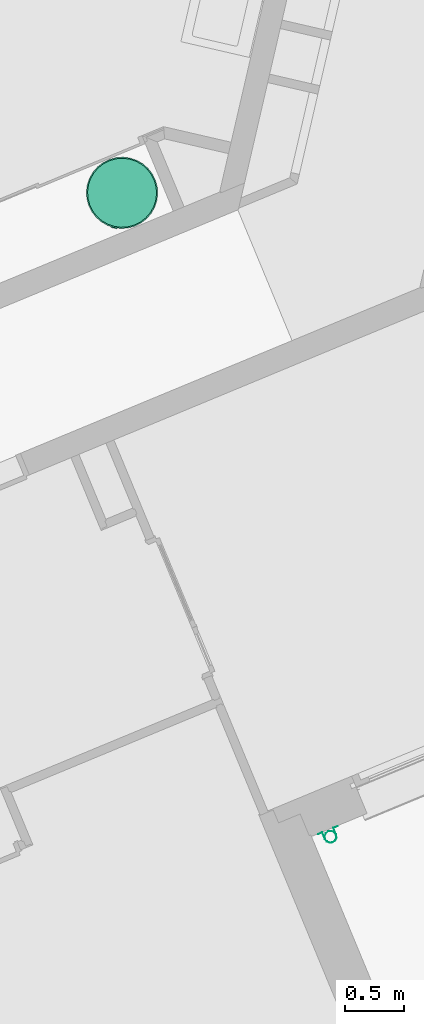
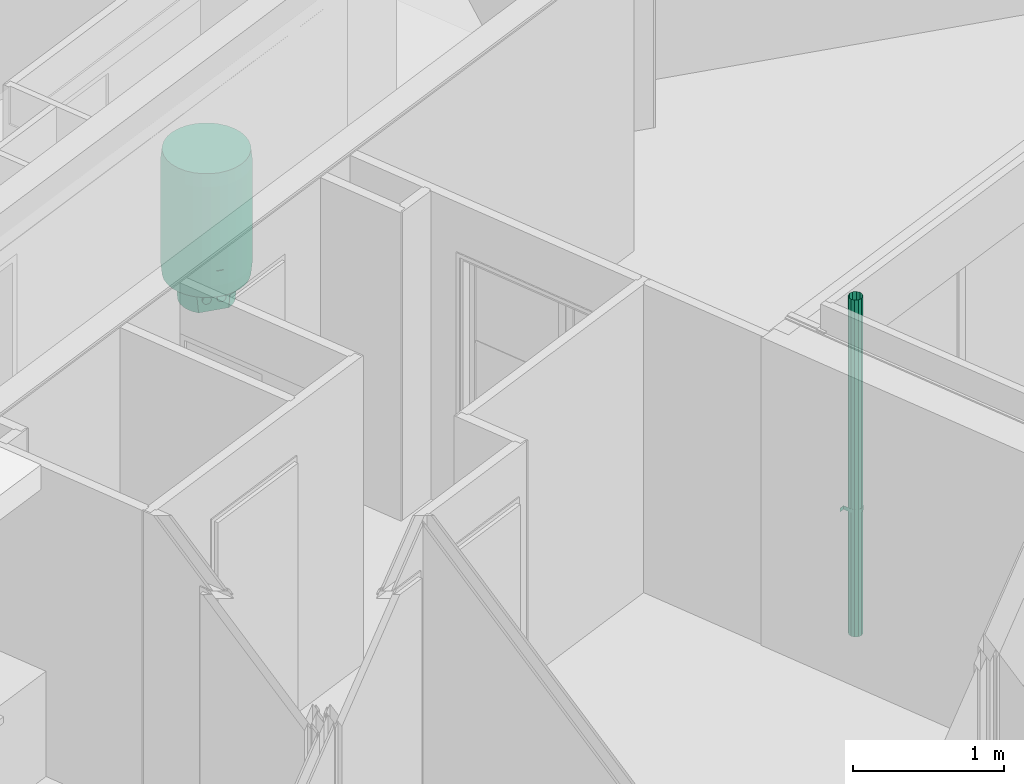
# One storey, part 69 of 91: 1 energy conversion device, 1 flow terminal.
"""IFC2X3 building model written with IfcOpenShell, lengths in metres."""

from ifc_helpers import new_model, entity, si_unit, converted_unit, derived_unit, money_unit, direction, frame, origin_with_axes, place, context, subcontext, project, spatial, open_shell, faceted_brep, surface_model, source, transform, mapped, type_object, element, save


model = new_model("IFC2X3")

# Units and contexts
model_context = context("Model", 3, precision=1e-05, world=origin_with_axes(), true_north=direction((0.0, 1.0)))
body_context = subcontext(model_context, "Body", "Model", "MODEL_VIEW")
ifc_project = project(units=[si_unit("LENGTHUNIT", "METRE"), si_unit("AREAUNIT", "SQUARE_METRE"), si_unit("VOLUMEUNIT", "CUBIC_METRE"), converted_unit("PLANEANGLEUNIT", "DEGREE", entity("IfcPlaneAngleMeasure", 0.0174532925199), si_unit("PLANEANGLEUNIT", "RADIAN"), dimensions=[0, 0, 0, 0, 0, 0, 0]), si_unit("SOLIDANGLEUNIT", "STERADIAN"), money_unit("EUR"), converted_unit("TIMEUNIT", "Year", entity("IfcTimeMeasure", 31556926.0), si_unit("TIMEUNIT", "SECOND"), dimensions=[0, 0, 1, 0, 0, 0, 0]), si_unit("MASSUNIT", "GRAM", prefix="KILO"), si_unit("THERMODYNAMICTEMPERATUREUNIT", "DEGREE_CELSIUS"), si_unit("LUMINOUSINTENSITYUNIT", "LUMEN"), si_unit("ENERGYUNIT", "JOULE", prefix="MEGA"), derived_unit("THERMALCONDUCTANCEUNIT", [(si_unit("POWERUNIT", "WATT"), 1), (si_unit("LENGTHUNIT", "METRE"), -1), (si_unit("THERMODYNAMICTEMPERATUREUNIT", "KELVIN"), -1)]), derived_unit("SPECIFICHEATCAPACITYUNIT", [(si_unit("ENERGYUNIT", "JOULE"), 1), (si_unit("MASSUNIT", "GRAM", prefix="KILO"), -1), (si_unit("THERMODYNAMICTEMPERATUREUNIT", "KELVIN"), -1)]), derived_unit("MASSDENSITYUNIT", [(si_unit("MASSUNIT", "GRAM", prefix="KILO"), 1), (si_unit("VOLUMEUNIT", "CUBIC_METRE"), -1)])], contexts=[model_context])

# Site, building, storey
site_placement = place(None, origin_with_axes())
site = spatial("IfcSite", under=ifc_project, at=site_placement, Name="Site", CompositionType="ELEMENT")
building_placement = place(site_placement, origin_with_axes())
building = spatial("IfcBuilding", under=site, at=building_placement, Name="Bâtiment", CompositionType="ELEMENT")
storey_placement = place(building_placement, frame((0.0, 0.0, 5.44), z_axis=(0.0, 0.0, 1.0), x_axis=(1.0, 0.0, 0.0)))
storey = spatial("IfcBuildingStorey", under=building, at=storey_placement, Name="R+2", CompositionType="ELEMENT", Elevation=5.44)

# Flow terminal
waste_terminal_type = type_object("IfcWasteTerminalType", Name="Tuyau descente 23", PredefinedType="GULLYTRAP")
shared_shape_1 = source(origin_with_axes(), body_context, "Body", "SurfaceModel", [
    surface_model("IfcShellBasedSurfaceModel", [(0.05, -0.0125, 2.7222918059), (0.0433012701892, -0.0375, 2.7222918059), (0.0433012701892, -0.0375, 0.0), (0.05, -0.0125, 0.0), (0.025, -0.0558012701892, 2.7222918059), (0.025, -0.0558012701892, 0.0), (0.0433012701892, 0.0125, 2.7222918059), (0.0433012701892, 0.0125, 0.0), (0.0, -0.0625, 2.7222918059), (0.0, -0.0625, 0.0), (0.025, 0.0308012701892, 2.7222918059), (0.025, 0.0308012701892, 0.0), (-0.025, -0.0558012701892, 2.7222918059), (-0.025, -0.0558012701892, 0.0), (0.0, 0.0375, 2.7222918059), (0.0, 0.0375, 0.0), (-0.0433012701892, -0.0375, 2.7222918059), (-0.0433012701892, -0.0375, 0.0), (-0.025, 0.0308012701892, 2.7222918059), (-0.025, 0.0308012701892, 0.0), (-0.05, -0.0125, 2.7222918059), (-0.05, -0.0125, 0.0), (-0.0433012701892, 0.0125, 2.7222918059), (-0.0433012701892, 0.0125, 0.0)], [open_shell([[[0, 1, 2, 3]], [[1, 4, 5, 2]], [[6, 0, 3, 7]], [[4, 8, 9, 5]], [[10, 6, 7, 11]], [[8, 12, 13, 9]], [[14, 10, 11, 15]], [[12, 16, 17, 13]], [[18, 14, 15, 19]], [[16, 20, 21, 17]], [[22, 18, 19, 23]], [[20, 22, 23, 21]]])]),
    faceted_brep([(-0.09, 0.0479, 1.0), (-0.052, 0.0479, 1.0), (-0.052, 0.0479, 1.03), (-0.09, 0.0479, 1.03), (-0.09, 0.0499, 1.0), (-0.0502, 0.0499, 1.0), (-0.0502, -0.0126, 1.0), (-0.04347447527, -0.0377, 1.0), (-0.0251, -0.05607447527, 1.0), (0.0, -0.0628, 1.0), (0.0251, -0.05607447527, 1.0), (0.04347447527, -0.0377, 1.0), (0.0502, -0.0126, 1.0), (0.0502, 0.0499, 1.0), (0.09, 0.0499, 1.0), (0.09, 0.0479, 1.0), (0.052, 0.0479, 1.0), (0.052, -0.0126, 1.0), (0.0450333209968, -0.0386, 1.0), (0.026, -0.0576333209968, 1.0), (0.0, -0.0646, 1.0), (-0.026, -0.0576333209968, 1.0), (-0.0450333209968, -0.0386, 1.0), (-0.052, -0.0126, 1.0), (-0.052, -0.0126, 1.03), (-0.0450333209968, -0.0386, 1.03), (-0.026, -0.0576333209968, 1.03), (0.0, -0.0646, 1.03), (0.026, -0.0576333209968, 1.03), (0.0450333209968, -0.0386, 1.03), (0.052, -0.0126, 1.03), (0.052, 0.0479, 1.03), (0.09, 0.0479, 1.03), (0.09, 0.0499, 1.03), (0.0502, 0.0499, 1.03), (0.0502, -0.0126, 1.03), (0.04347447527, -0.0377, 1.03), (0.0251, -0.05607447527, 1.03), (0.0, -0.0628, 1.03), (-0.0251, -0.05607447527, 1.03), (-0.04347447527, -0.0377, 1.03), (-0.0502, -0.0126, 1.03), (-0.0502, 0.0499, 1.03), (-0.09, 0.0499, 1.03)], [[[0, 1, 2, 3]], [[0, 4, 5, 6, 7, 8, 9, 10, 11, 12, 13, 14, 15, 16, 17, 18, 19, 20, 21, 22, 23, 1]], [[1, 23, 24, 2]], [[3, 2, 24, 25, 26, 27, 28, 29, 30, 31, 32, 33, 34, 35, 36, 37, 38, 39, 40, 41, 42, 43]], [[4, 0, 3, 43]], [[5, 4, 43, 42]], [[6, 5, 42, 41]], [[7, 6, 41, 40]], [[8, 7, 40, 39]], [[9, 8, 39, 38]], [[10, 9, 38, 37]], [[11, 10, 37, 36]], [[12, 11, 36, 35]], [[13, 12, 35, 34]], [[14, 13, 34, 33]], [[15, 14, 33, 32]], [[16, 15, 32, 31]], [[17, 16, 31, 30]], [[18, 17, 30, 29]], [[19, 18, 29, 28]], [[20, 19, 28, 27]], [[21, 20, 27, 26]], [[22, 21, 26, 25]], [[23, 22, 25, 24]]]),
])
flow_terminal_placement = place(storey_placement, frame((-14.4677643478, -23.0167914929, 0.0), z_axis=(0.0, 0.0, 1.0), x_axis=(0.923701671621, 0.383112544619, 0.0)))
element("IfcFlowTerminal", 1, at=flow_terminal_placement, inside=storey, type_object=waste_terminal_type, Name="MOB-006", context=body_context, shape_type="MappedRepresentation", body=[
    mapped(shared_shape_1, transform((0.0, 0.0, 0.0))),
])

# Energy conversion device
heat_exchanger_type = type_object("IfcHeatExchangerType", Name="Chauffe-eau électrique 23", PredefinedType="SHELLANDTUBE")
shared_shape_2 = source(origin_with_axes(), body_context, "Body", "Brep", [
    faceted_brep([(-0.0254166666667, -0.310083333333, 0.4), (-0.0254166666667, -0.305, 0.4), (0.0254166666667, -0.305, 0.4), (0.0254166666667, -0.310083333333, 0.4), (-0.0254166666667, -0.310083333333, 0.42), (-0.0254166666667, -0.305, 0.42), (0.0254166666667, -0.305, 0.42), (0.0254166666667, -0.310083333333, 0.42)], [[[0, 1, 2, 3]], [[0, 4, 5, 1]], [[1, 5, 6, 2]], [[2, 6, 7, 3]], [[3, 7, 4, 0]], [[7, 6, 5, 4]]]),
    faceted_brep([(0.0226550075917, -0.162666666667, 0.0883281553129), (0.0203333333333, -0.162666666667, 0.1), (0.0226550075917, -0.162666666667, 0.111671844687), (0.0292665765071, -0.162666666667, 0.121566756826), (0.0391614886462, -0.162666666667, 0.128178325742), (0.0508333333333, -0.162666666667, 0.1305), (0.0625051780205, -0.162666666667, 0.128178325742), (0.0724000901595, -0.162666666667, 0.121566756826), (0.0790116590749, -0.162666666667, 0.111671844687), (0.0813333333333, -0.162666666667, 0.1), (0.0790116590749, -0.162666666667, 0.0883281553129), (0.0724000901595, -0.162666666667, 0.0784332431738), (0.0625051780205, -0.162666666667, 0.0718216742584), (0.0508333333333, -0.162666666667, 0.0695), (0.0391614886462, -0.162666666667, 0.0718216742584), (0.0292665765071, -0.162666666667, 0.0784332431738), (0.0226550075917, -0.177916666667, 0.0883281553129), (0.0203333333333, -0.177916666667, 0.1), (0.0226550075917, -0.177916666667, 0.111671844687), (0.0292665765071, -0.177916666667, 0.121566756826), (0.0391614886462, -0.177916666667, 0.128178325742), (0.0508333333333, -0.177916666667, 0.1305), (0.0625051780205, -0.177916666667, 0.128178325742), (0.0724000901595, -0.177916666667, 0.121566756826), (0.0790116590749, -0.177916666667, 0.111671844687), (0.0813333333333, -0.177916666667, 0.1), (0.0790116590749, -0.177916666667, 0.0883281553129), (0.0724000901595, -0.177916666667, 0.0784332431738), (0.0625051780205, -0.177916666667, 0.0718216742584), (0.0508333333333, -0.177916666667, 0.0695), (0.0391614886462, -0.177916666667, 0.0718216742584), (0.0292665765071, -0.177916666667, 0.0784332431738)], [[[0, 1, 2, 3, 4, 5, 6, 7, 8, 9, 10, 11, 12, 13, 14, 15]], [[0, 16, 17, 1]], [[1, 17, 18, 2]], [[2, 18, 19, 3]], [[3, 19, 20, 4]], [[4, 20, 21, 5]], [[5, 21, 22, 6]], [[6, 22, 23, 7]], [[7, 23, 24, 8]], [[8, 24, 25, 9]], [[9, 25, 26, 10]], [[10, 26, 27, 11]], [[11, 27, 28, 12]], [[12, 28, 29, 13]], [[13, 29, 30, 14]], [[14, 30, 31, 15]], [[15, 31, 16, 0]], [[16, 31, 30, 29, 28, 27, 26, 25, 24, 23, 22, 21, 20, 19, 18, 17]]]),
    faceted_brep([(-0.0790116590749, -0.162666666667, 0.0883281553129), (-0.0813333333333, -0.162666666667, 0.1), (-0.0790116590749, -0.162666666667, 0.111671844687), (-0.0724000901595, -0.162666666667, 0.121566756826), (-0.0625051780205, -0.162666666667, 0.128178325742), (-0.0508333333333, -0.162666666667, 0.1305), (-0.0391614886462, -0.162666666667, 0.128178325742), (-0.0292665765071, -0.162666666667, 0.121566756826), (-0.0226550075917, -0.162666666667, 0.111671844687), (-0.0203333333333, -0.162666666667, 0.1), (-0.0226550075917, -0.162666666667, 0.0883281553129), (-0.0292665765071, -0.162666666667, 0.0784332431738), (-0.0391614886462, -0.162666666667, 0.0718216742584), (-0.0508333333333, -0.162666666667, 0.0695), (-0.0625051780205, -0.162666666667, 0.0718216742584), (-0.0724000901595, -0.162666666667, 0.0784332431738), (-0.0790116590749, -0.177916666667, 0.0883281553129), (-0.0813333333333, -0.177916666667, 0.1), (-0.0790116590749, -0.177916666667, 0.111671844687), (-0.0724000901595, -0.177916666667, 0.121566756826), (-0.0625051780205, -0.177916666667, 0.128178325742), (-0.0508333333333, -0.177916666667, 0.1305), (-0.0391614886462, -0.177916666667, 0.128178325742), (-0.0292665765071, -0.177916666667, 0.121566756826), (-0.0226550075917, -0.177916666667, 0.111671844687), (-0.0203333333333, -0.177916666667, 0.1), (-0.0226550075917, -0.177916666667, 0.0883281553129), (-0.0292665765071, -0.177916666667, 0.0784332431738), (-0.0391614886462, -0.177916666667, 0.0718216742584), (-0.0508333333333, -0.177916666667, 0.0695), (-0.0625051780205, -0.177916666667, 0.0718216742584), (-0.0724000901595, -0.177916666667, 0.0784332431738)], [[[0, 1, 2, 3, 4, 5, 6, 7, 8, 9, 10, 11, 12, 13, 14, 15]], [[0, 16, 17, 1]], [[1, 17, 18, 2]], [[2, 18, 19, 3]], [[3, 19, 20, 4]], [[4, 20, 21, 5]], [[5, 21, 22, 6]], [[6, 22, 23, 7]], [[7, 23, 24, 8]], [[8, 24, 25, 9]], [[9, 25, 26, 10]], [[10, 26, 27, 11]], [[11, 27, 28, 12]], [[12, 28, 29, 13]], [[13, 29, 30, 14]], [[14, 30, 31, 15]], [[15, 31, 16, 0]], [[16, 31, 30, 29, 28, 27, 26, 25, 24, 23, 22, 21, 20, 19, 18, 17]]]),
    faceted_brep([(-0.189455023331, -0.0376849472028, 0.0), (-0.199426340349, -0.0396683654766, 0.2), (-0.203333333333, 0.0, 0.2), (-0.193166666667, 0.0, 0.0), (-0.178462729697, -0.0739216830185, 0.0), (-0.187855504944, -0.0778122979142, 0.2), (-0.169065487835, -0.112965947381, 0.2), (-0.143778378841, -0.143778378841, 0.2), (-0.120762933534, -0.162666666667, 0.2), (0.120762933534, -0.162666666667, 0.2), (0.143778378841, -0.143778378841, 0.2), (0.169065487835, -0.112965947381, 0.2), (0.187855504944, -0.0778122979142, 0.2), (0.199426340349, -0.0396683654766, 0.2), (0.203333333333, 0.0, 0.2), (0.199426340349, 0.0396683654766, 0.2), (0.187855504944, 0.0778122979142, 0.2), (0.169065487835, 0.112965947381, 0.2), (0.143778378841, 0.143778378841, 0.2), (0.112965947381, 0.169065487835, 0.2), (0.0778122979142, 0.187855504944, 0.2), (0.0396683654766, 0.199426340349, 0.2), (0.0, 0.203333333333, 0.2), (-0.0396683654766, 0.199426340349, 0.2), (-0.0778122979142, 0.187855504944, 0.2), (-0.112965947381, 0.169065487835, 0.2), (-0.143778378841, 0.143778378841, 0.2), (-0.169065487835, 0.112965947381, 0.2), (-0.187855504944, 0.0778122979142, 0.2), (-0.199426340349, 0.0396683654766, 0.2), (-0.189455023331, 0.0376849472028, 0.0), (-0.178462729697, 0.0739216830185, 0.0), (-0.160612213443, 0.107317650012, 0.0), (-0.136589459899, 0.136589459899, 0.0), (-0.107317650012, 0.160612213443, 0.0), (-0.0739216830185, 0.178462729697, 0.0), (-0.0376849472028, 0.189455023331, 0.0), (0.0, 0.193166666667, 0.0), (0.0376849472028, 0.189455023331, 0.0), (0.0739216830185, 0.178462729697, 0.0), (0.107317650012, 0.160612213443, 0.0), (0.136589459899, 0.136589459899, 0.0), (0.160612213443, 0.107317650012, 0.0), (0.178462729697, 0.0739216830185, 0.0), (0.189455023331, 0.0376849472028, 0.0), (0.193166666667, 0.0, 0.0), (0.189455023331, -0.0376849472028, 0.0), (0.178462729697, -0.0739216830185, 0.0), (0.160612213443, -0.107317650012, 0.0), (0.136589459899, -0.136589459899, 0.0), (0.107317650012, -0.160612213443, 0.0), (0.103474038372, -0.162666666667, 0.0), (-0.103474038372, -0.162666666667, 0.0), (-0.107317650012, -0.160612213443, 0.0), (-0.136589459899, -0.136589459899, 0.0), (-0.160612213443, -0.107317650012, 0.0), (-0.108690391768, -0.162666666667, 0.0486072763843), (0.108690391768, -0.162666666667, 0.0486072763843)], [[[0, 1, 2, 3]], [[4, 5, 1, 0]], [[1, 5, 6, 7, 8, 9, 10, 11, 12, 13, 14, 15, 16, 17, 18, 19, 20, 21, 22, 23, 24, 25, 26, 27, 28, 29, 2]], [[3, 2, 29, 30]], [[0, 3, 30, 31, 32, 33, 34, 35, 36, 37, 38, 39, 40, 41, 42, 43, 44, 45, 46, 47, 48, 49, 50, 51, 52, 53, 54, 55, 4]], [[55, 6, 5, 4]], [[54, 7, 6, 55]], [[53, 56, 8, 7, 54]], [[51, 57, 9, 8, 56, 52]], [[49, 10, 9, 57, 50]], [[48, 11, 10, 49]], [[47, 12, 11, 48]], [[46, 13, 12, 47]], [[45, 14, 13, 46]], [[44, 15, 14, 45]], [[43, 16, 15, 44]], [[42, 17, 16, 43]], [[41, 18, 17, 42]], [[40, 19, 18, 41]], [[39, 20, 19, 40]], [[38, 21, 20, 39]], [[37, 22, 21, 38]], [[36, 23, 22, 37]], [[35, 24, 23, 36]], [[34, 25, 24, 35]], [[33, 26, 25, 34]], [[32, 27, 26, 33]], [[31, 28, 27, 32]], [[30, 29, 28, 31]], [[50, 57, 51]], [[52, 56, 53]]]),
    faceted_brep([(-0.289168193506, -0.0575191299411, 0.2), (-0.299139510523, -0.0595025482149, 0.3), (-0.305, 0.0, 0.3), (-0.294833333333, 0.0, 0.2), (-0.272390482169, -0.112827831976, 0.2), (-0.281783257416, -0.116718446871, 0.3), (-0.253598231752, -0.169448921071, 0.3), (-0.215667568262, -0.215667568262, 0.3), (-0.169448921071, -0.253598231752, 0.3), (-0.116718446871, -0.281783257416, 0.3), (-0.0595025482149, -0.299139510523, 0.3), (0.0, -0.305, 0.3), (0.0595025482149, -0.299139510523, 0.3), (0.116718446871, -0.281783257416, 0.3), (0.169448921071, -0.253598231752, 0.3), (0.215667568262, -0.215667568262, 0.3), (0.253598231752, -0.169448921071, 0.3), (0.281783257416, -0.116718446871, 0.3), (0.299139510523, -0.0595025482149, 0.3), (0.305, 0.0, 0.3), (0.299139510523, 0.0595025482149, 0.3), (0.281783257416, 0.116718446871, 0.3), (0.253598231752, 0.169448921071, 0.3), (0.215667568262, 0.215667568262, 0.3), (0.169448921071, 0.253598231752, 0.3), (0.116718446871, 0.281783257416, 0.3), (0.0595025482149, 0.299139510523, 0.3), (0.0, 0.305, 0.3), (-0.0595025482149, 0.299139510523, 0.3), (-0.116718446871, 0.281783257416, 0.3), (-0.169448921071, 0.253598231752, 0.3), (-0.215667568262, 0.215667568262, 0.3), (-0.253598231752, 0.169448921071, 0.3), (-0.281783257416, 0.116718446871, 0.3), (-0.299139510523, 0.0595025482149, 0.3), (-0.289168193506, 0.0575191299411, 0.2), (-0.272390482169, 0.112827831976, 0.2), (-0.245144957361, 0.163800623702, 0.2), (-0.20847864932, 0.20847864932, 0.2), (-0.163800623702, 0.245144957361, 0.2), (-0.112827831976, 0.272390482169, 0.2), (-0.0575191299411, 0.289168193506, 0.2), (0.0, 0.294833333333, 0.2), (0.0575191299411, 0.289168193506, 0.2), (0.112827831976, 0.272390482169, 0.2), (0.163800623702, 0.245144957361, 0.2), (0.20847864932, 0.20847864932, 0.2), (0.245144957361, 0.163800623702, 0.2), (0.272390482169, 0.112827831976, 0.2), (0.289168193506, 0.0575191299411, 0.2), (0.294833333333, 0.0, 0.2), (0.289168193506, -0.0575191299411, 0.2), (0.272390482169, -0.112827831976, 0.2), (0.245144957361, -0.163800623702, 0.2), (0.20847864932, -0.20847864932, 0.2), (0.163800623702, -0.245144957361, 0.2), (0.112827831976, -0.272390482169, 0.2), (0.0575191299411, -0.289168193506, 0.2), (0.0, -0.294833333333, 0.2), (-0.0575191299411, -0.289168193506, 0.2), (-0.112827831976, -0.272390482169, 0.2), (-0.163800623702, -0.245144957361, 0.2), (-0.20847864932, -0.20847864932, 0.2), (-0.245144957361, -0.163800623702, 0.2)], [[[0, 1, 2, 3]], [[4, 5, 1, 0]], [[1, 5, 6, 7, 8, 9, 10, 11, 12, 13, 14, 15, 16, 17, 18, 19, 20, 21, 22, 23, 24, 25, 26, 27, 28, 29, 30, 31, 32, 33, 34, 2]], [[3, 2, 34, 35]], [[0, 3, 35, 36, 37, 38, 39, 40, 41, 42, 43, 44, 45, 46, 47, 48, 49, 50, 51, 52, 53, 54, 55, 56, 57, 58, 59, 60, 61, 62, 63, 4]], [[63, 6, 5, 4]], [[62, 7, 6, 63]], [[61, 8, 7, 62]], [[60, 9, 8, 61]], [[59, 10, 9, 60]], [[58, 11, 10, 59]], [[57, 12, 11, 58]], [[56, 13, 12, 57]], [[55, 14, 13, 56]], [[54, 15, 14, 55]], [[53, 16, 15, 54]], [[52, 17, 16, 53]], [[51, 18, 17, 52]], [[50, 19, 18, 51]], [[49, 20, 19, 50]], [[48, 21, 20, 49]], [[47, 22, 21, 48]], [[46, 23, 22, 47]], [[45, 24, 23, 46]], [[44, 25, 24, 45]], [[43, 26, 25, 44]], [[42, 27, 26, 43]], [[41, 28, 27, 42]], [[40, 29, 28, 41]], [[39, 30, 29, 40]], [[38, 31, 30, 39]], [[37, 32, 31, 38]], [[36, 33, 32, 37]], [[35, 34, 33, 36]]]),
    faceted_brep([(-0.299139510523, -0.0595025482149, 0.3), (-0.305, 0.0, 0.3), (-0.299139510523, 0.0595025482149, 0.3), (-0.281783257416, 0.116718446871, 0.3), (-0.253598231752, 0.169448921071, 0.3), (-0.215667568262, 0.215667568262, 0.3), (-0.169448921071, 0.253598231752, 0.3), (-0.116718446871, 0.281783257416, 0.3), (-0.0595025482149, 0.299139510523, 0.3), (0.0, 0.305, 0.3), (0.0595025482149, 0.299139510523, 0.3), (0.116718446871, 0.281783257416, 0.3), (0.169448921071, 0.253598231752, 0.3), (0.215667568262, 0.215667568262, 0.3), (0.253598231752, 0.169448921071, 0.3), (0.281783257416, 0.116718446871, 0.3), (0.299139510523, 0.0595025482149, 0.3), (0.305, 0.0, 0.3), (0.299139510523, -0.0595025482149, 0.3), (0.281783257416, -0.116718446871, 0.3), (0.253598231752, -0.169448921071, 0.3), (0.215667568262, -0.215667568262, 0.3), (0.169448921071, -0.253598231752, 0.3), (0.116718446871, -0.281783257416, 0.3), (0.0595025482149, -0.299139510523, 0.3), (0.0, -0.305, 0.3), (-0.0595025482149, -0.299139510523, 0.3), (-0.116718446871, -0.281783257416, 0.3), (-0.169448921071, -0.253598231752, 0.3), (-0.215667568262, -0.215667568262, 0.3), (-0.253598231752, -0.169448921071, 0.3), (-0.281783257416, -0.116718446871, 0.3), (-0.299139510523, -0.0595025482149, 1.1), (-0.305, 0.0, 1.1), (-0.299139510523, 0.0595025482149, 1.1), (-0.281783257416, 0.116718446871, 1.1), (-0.253598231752, 0.169448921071, 1.1), (-0.215667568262, 0.215667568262, 1.1), (-0.169448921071, 0.253598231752, 1.1), (-0.116718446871, 0.281783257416, 1.1), (-0.0595025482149, 0.299139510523, 1.1), (0.0, 0.305, 1.1), (0.0595025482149, 0.299139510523, 1.1), (0.116718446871, 0.281783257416, 1.1), (0.169448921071, 0.253598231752, 1.1), (0.215667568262, 0.215667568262, 1.1), (0.253598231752, 0.169448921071, 1.1), (0.281783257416, 0.116718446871, 1.1), (0.299139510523, 0.0595025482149, 1.1), (0.305, 0.0, 1.1), (0.299139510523, -0.0595025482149, 1.1), (0.281783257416, -0.116718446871, 1.1), (0.253598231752, -0.169448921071, 1.1), (0.215667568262, -0.215667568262, 1.1), (0.169448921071, -0.253598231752, 1.1), (0.116718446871, -0.281783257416, 1.1), (0.0595025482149, -0.299139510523, 1.1), (0.0, -0.305, 1.1), (-0.0595025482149, -0.299139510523, 1.1), (-0.116718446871, -0.281783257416, 1.1), (-0.169448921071, -0.253598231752, 1.1), (-0.215667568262, -0.215667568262, 1.1), (-0.253598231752, -0.169448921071, 1.1), (-0.281783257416, -0.116718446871, 1.1)], [[[0, 1, 2, 3, 4, 5, 6, 7, 8, 9, 10, 11, 12, 13, 14, 15, 16, 17, 18, 19, 20, 21, 22, 23, 24, 25, 26, 27, 28, 29, 30, 31]], [[0, 32, 33, 1]], [[1, 33, 34, 2]], [[2, 34, 35, 3]], [[3, 35, 36, 4]], [[4, 36, 37, 5]], [[5, 37, 38, 6]], [[6, 38, 39, 7]], [[7, 39, 40, 8]], [[8, 40, 41, 9]], [[9, 41, 42, 10]], [[10, 42, 43, 11]], [[11, 43, 44, 12]], [[12, 44, 45, 13]], [[13, 45, 46, 14]], [[14, 46, 47, 15]], [[15, 47, 48, 16]], [[16, 48, 49, 17]], [[17, 49, 50, 18]], [[18, 50, 51, 19]], [[19, 51, 52, 20]], [[20, 52, 53, 21]], [[21, 53, 54, 22]], [[22, 54, 55, 23]], [[23, 55, 56, 24]], [[24, 56, 57, 25]], [[25, 57, 58, 26]], [[26, 58, 59, 27]], [[27, 59, 60, 28]], [[28, 60, 61, 29]], [[29, 61, 62, 30]], [[30, 62, 63, 31]], [[31, 63, 32, 0]], [[32, 63, 62, 61, 60, 59, 58, 57, 56, 55, 54, 53, 52, 51, 50, 49, 48, 47, 46, 45, 44, 43, 42, 41, 40, 39, 38, 37, 36, 35, 34, 33]]]),
    faceted_brep([(-0.299139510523, -0.0595025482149, 1.1), (-0.289168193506, -0.0575191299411, 1.2), (-0.294833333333, 0.0, 1.2), (-0.305, 0.0, 1.1), (-0.281783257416, -0.116718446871, 1.1), (-0.272390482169, -0.112827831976, 1.2), (-0.245144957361, -0.163800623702, 1.2), (-0.20847864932, -0.20847864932, 1.2), (-0.163800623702, -0.245144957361, 1.2), (-0.112827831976, -0.272390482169, 1.2), (-0.0575191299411, -0.289168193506, 1.2), (0.0, -0.294833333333, 1.2), (0.0575191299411, -0.289168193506, 1.2), (0.112827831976, -0.272390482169, 1.2), (0.163800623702, -0.245144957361, 1.2), (0.20847864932, -0.20847864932, 1.2), (0.245144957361, -0.163800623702, 1.2), (0.272390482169, -0.112827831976, 1.2), (0.289168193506, -0.0575191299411, 1.2), (0.294833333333, 0.0, 1.2), (0.289168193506, 0.0575191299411, 1.2), (0.272390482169, 0.112827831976, 1.2), (0.245144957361, 0.163800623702, 1.2), (0.20847864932, 0.20847864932, 1.2), (0.163800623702, 0.245144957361, 1.2), (0.112827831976, 0.272390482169, 1.2), (0.0575191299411, 0.289168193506, 1.2), (0.0, 0.294833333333, 1.2), (-0.0575191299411, 0.289168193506, 1.2), (-0.112827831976, 0.272390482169, 1.2), (-0.163800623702, 0.245144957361, 1.2), (-0.20847864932, 0.20847864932, 1.2), (-0.245144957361, 0.163800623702, 1.2), (-0.272390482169, 0.112827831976, 1.2), (-0.289168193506, 0.0575191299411, 1.2), (-0.299139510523, 0.0595025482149, 1.1), (-0.281783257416, 0.116718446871, 1.1), (-0.253598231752, 0.169448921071, 1.1), (-0.215667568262, 0.215667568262, 1.1), (-0.169448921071, 0.253598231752, 1.1), (-0.116718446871, 0.281783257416, 1.1), (-0.0595025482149, 0.299139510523, 1.1), (0.0, 0.305, 1.1), (0.0595025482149, 0.299139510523, 1.1), (0.116718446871, 0.281783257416, 1.1), (0.169448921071, 0.253598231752, 1.1), (0.215667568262, 0.215667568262, 1.1), (0.253598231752, 0.169448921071, 1.1), (0.281783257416, 0.116718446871, 1.1), (0.299139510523, 0.0595025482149, 1.1), (0.305, 0.0, 1.1), (0.299139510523, -0.0595025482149, 1.1), (0.281783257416, -0.116718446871, 1.1), (0.253598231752, -0.169448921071, 1.1), (0.215667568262, -0.215667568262, 1.1), (0.169448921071, -0.253598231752, 1.1), (0.116718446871, -0.281783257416, 1.1), (0.0595025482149, -0.299139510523, 1.1), (0.0, -0.305, 1.1), (-0.0595025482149, -0.299139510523, 1.1), (-0.116718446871, -0.281783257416, 1.1), (-0.169448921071, -0.253598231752, 1.1), (-0.215667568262, -0.215667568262, 1.1), (-0.253598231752, -0.169448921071, 1.1)], [[[0, 1, 2, 3]], [[4, 5, 1, 0]], [[1, 5, 6, 7, 8, 9, 10, 11, 12, 13, 14, 15, 16, 17, 18, 19, 20, 21, 22, 23, 24, 25, 26, 27, 28, 29, 30, 31, 32, 33, 34, 2]], [[3, 2, 34, 35]], [[0, 3, 35, 36, 37, 38, 39, 40, 41, 42, 43, 44, 45, 46, 47, 48, 49, 50, 51, 52, 53, 54, 55, 56, 57, 58, 59, 60, 61, 62, 63, 4]], [[63, 6, 5, 4]], [[62, 7, 6, 63]], [[61, 8, 7, 62]], [[60, 9, 8, 61]], [[59, 10, 9, 60]], [[58, 11, 10, 59]], [[57, 12, 11, 58]], [[56, 13, 12, 57]], [[55, 14, 13, 56]], [[54, 15, 14, 55]], [[53, 16, 15, 54]], [[52, 17, 16, 53]], [[51, 18, 17, 52]], [[50, 19, 18, 51]], [[49, 20, 19, 50]], [[48, 21, 20, 49]], [[47, 22, 21, 48]], [[46, 23, 22, 47]], [[45, 24, 23, 46]], [[44, 25, 24, 45]], [[43, 26, 25, 44]], [[42, 27, 26, 43]], [[41, 28, 27, 42]], [[40, 29, 28, 41]], [[39, 30, 29, 40]], [[38, 31, 30, 39]], [[37, 32, 31, 38]], [[36, 33, 32, 37]], [[35, 34, 33, 36]]]),
])
energy_conversion_device_placement = place(storey_placement, frame((-16.2450388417, -17.5243887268, 0.0), z_axis=(0.0, 0.0, 1.0), x_axis=(0.974387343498, -0.224876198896, 0.0)))
element("IfcEnergyConversionDevice", 2, at=energy_conversion_device_placement, inside=storey, type_object=heat_exchanger_type, Name="MOB-002", context=body_context, shape_type="MappedRepresentation", body=[
    mapped(shared_shape_2, transform((0.0, 0.0, 0.0))),
])

save(model, "model.ifc")
